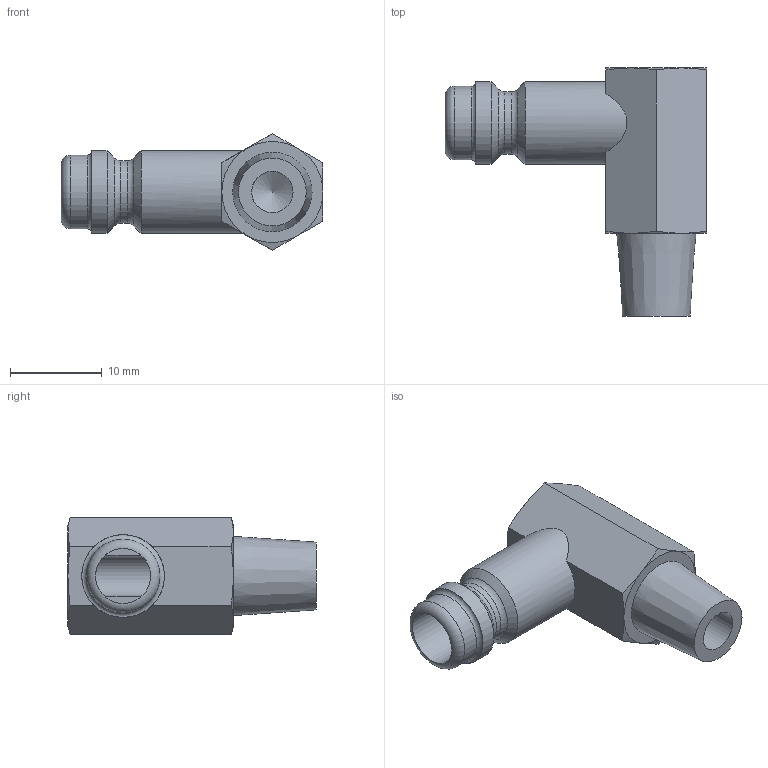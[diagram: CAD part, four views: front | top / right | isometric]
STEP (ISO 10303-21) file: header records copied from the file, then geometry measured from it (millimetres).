
FILE_DESCRIPTION( ( 'STEP AP203' ), ' ' );
FILE_NAME( 'p:/temp/worker_12/2764_5044/app_40_02016041814495197448181192d056f_000000_00_00_000000/format_0/ST1409M08,075.stp', '2016-04-18T12:49:52', ( '' ), ( '' ), ' ', 'PARTsolutions', ' ' );
FILE_SCHEMA( ( 'CONFIG_CONTROL_DESIGN' ) );
Length unit declared in the file: millimetre
Products named in the file (1): _ST1409M08,075
Bounding box: 28.5 x 27 x 12.7 mm (x, y, z)
Volume: 2347.8 mm3; surface area: 2279.9 mm2
Topology: 1 solids, 1 shells, 39 faces, 88 edges, 50 vertices
Faces by surface type: cone 16, plane 12, cylinder 7, torus 4
Full cylindrical faces by diameter (mm): 4.5 x1, 6 x1, 6.8 x1, 8 x1, 9 x2
Entity records: 1086 total; most frequent: CARTESIAN_POINT 298, DIRECTION 152, ORIENTED_EDGE 138, AXIS2_PLACEMENT_3D 71, EDGE_CURVE 69, EDGE_LOOP 53, FACE_OUTER_BOUND 48, VERTEX_POINT 47
